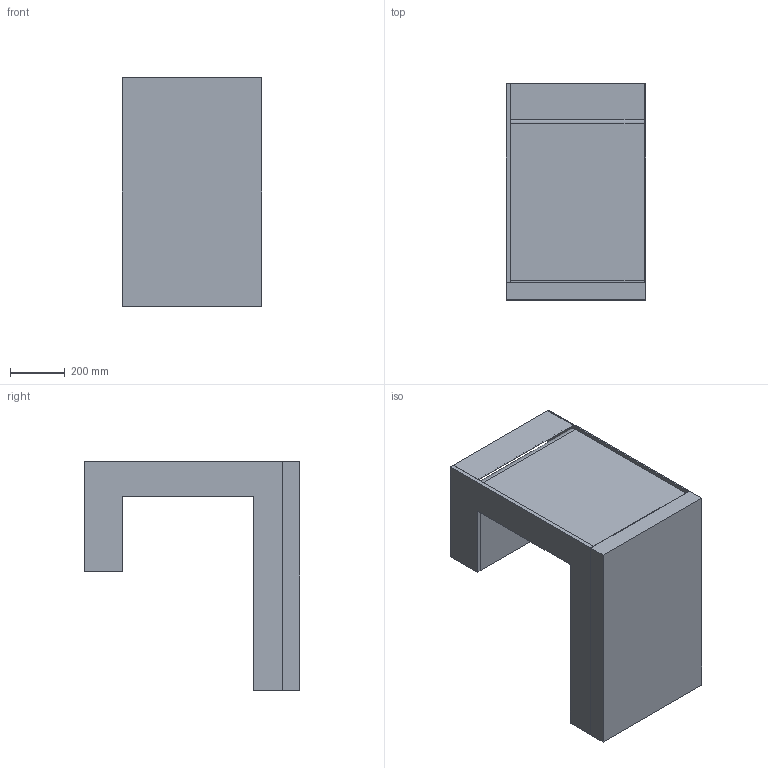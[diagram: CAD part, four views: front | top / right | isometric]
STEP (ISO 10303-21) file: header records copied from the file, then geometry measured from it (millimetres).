
FILE_DESCRIPTION(/* description */ (''),/* implementation_level */ '2;1');
FILE_NAME(/* name */ 'ChamberTopFlowConditioning.step',/* time_stamp */ '2024-09-30T15:17:45-07:00',/* author */ (''),/* organization */ (''),/* preprocessor_version */ 'ST-DEVELOPER v20',/* originating_system */ 'Autodesk Translation Framework v13.20.0.188',/* authorisation */ '');
FILE_SCHEMA (('AUTOMOTIVE_DESIGN { 1 0 10303 214 3 1 1 }'));
Products named in the file (8): ChamberTopFlowConditioning; CornerVaneConvex v4; CornerVane; Component55; Component56; Component57; Component58; 6.9-5x7 - 16.99 Long 484
Assembly tree (7 placements, depth 3):
  ChamberTopFlowConditioning
    CornerVaneConvex v4
      CornerVane
      Component55
      Component56
      Component57
      Component58
    6.9-5x7 - 16.99 Long 484
Bounding box: 510 x 790 x 837.71 mm (x, y, z)
Volume: 125478596 mm3; surface area: 5614731.2 mm2
Topology: 3 solids, 4 shells, 2606 faces, 7748 edges, 5132 vertices
Faces by surface type: plane 2556, cylinder 46, bspline 4
Entity records: 87948 total; most frequent: CARTESIAN_POINT 15685, ORIENTED_EDGE 15496, DIRECTION 13068, EDGE_CURVE 7748, LINE 7646, VECTOR 7646, VERTEX_POINT 5132, EDGE_LOOP 3664
